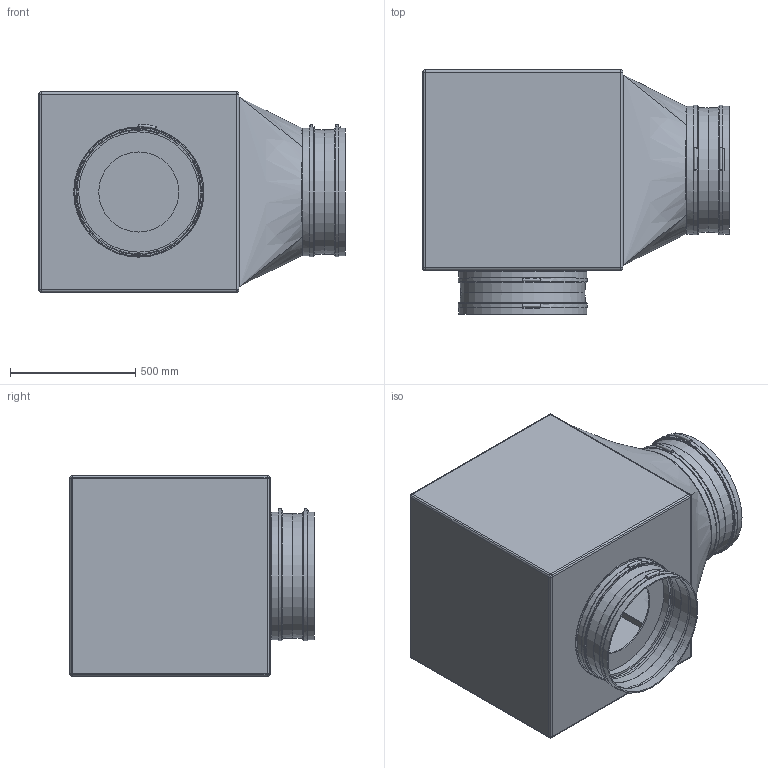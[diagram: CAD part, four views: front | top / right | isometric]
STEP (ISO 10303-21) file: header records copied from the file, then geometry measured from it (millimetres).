
FILE_DESCRIPTION(/* description */ (''),/* implementation_level */ '2;1');
FILE_NAME(/* name */ 'Z:\Output\GBD EC 500 B_Radial-05813-001.stp',/* time_stamp */ '2017-05-09T00:02:17+02:00',/* author */ ('jayeshpanchal'),/* organization */ (''),/* preprocessor_version */ 'ST-DEVELOPER v16.5',/* originating_system */ 'Autodesk Inventor 2017',/* authorisation */ '');
FILE_SCHEMA (('AUTOMOTIVE_DESIGN { 1 0 10303 214 3 1 1 }'));
Length unit declared in the file: millimetre
Products named in the file (1): GB-2
Bounding box: 1225 x 975 x 800 mm (x, y, z)
Volume: 21598677.9 mm3; surface area: 9782497.2 mm2
Topology: 9 solids, 10 shells, 139 faces, 266 edges, 160 vertices
Faces by surface type: plane 55, cylinder 48, bspline 16, cone 8, sphere 8, torus 4
Full cylindrical faces by diameter (mm): 320 x1, 480 x1, 490 x1, 500 x2, 501 x8, 510 x2, 511 x8, 517 x4, 520 x1
Entity records: 4003 total; most frequent: CARTESIAN_POINT 1272, DIRECTION 584, ORIENTED_EDGE 466, AXIS2_PLACEMENT_3D 245, EDGE_CURVE 227, EDGE_LOOP 206, VERTEX_POINT 157, FACE_OUTER_BOUND 139
